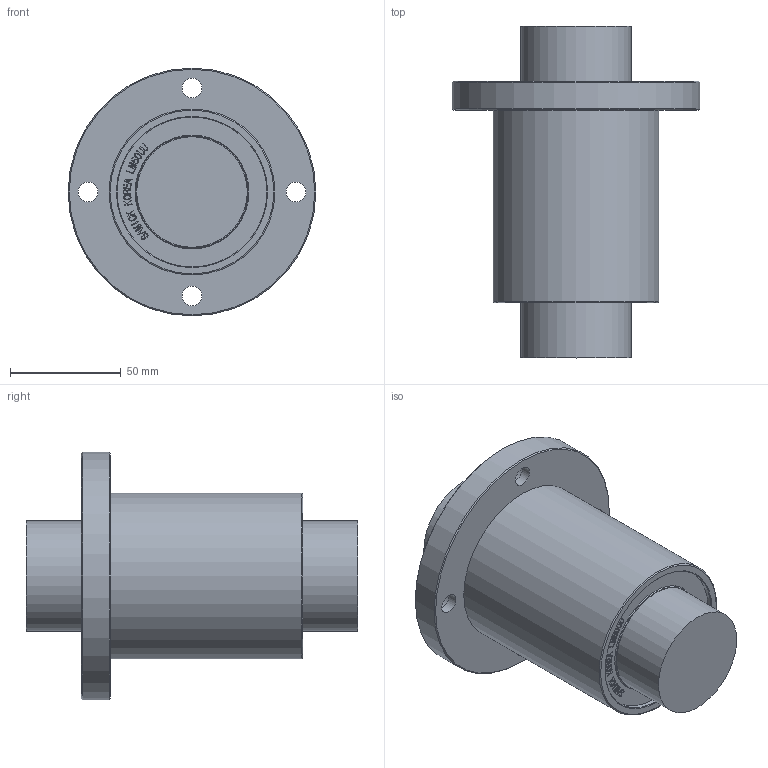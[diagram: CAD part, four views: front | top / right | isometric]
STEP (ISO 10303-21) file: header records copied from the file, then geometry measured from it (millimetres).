
FILE_DESCRIPTION(/* description */ (''),/* implementation_level */ '2;1');
FILE_NAME(/* name */ 'W:\(01) 2024년 홈페이지 CAD파일 최신화\LMEF\IPT\LMEF50UU.stp',/* time_stamp */ '2025-01-25T10:28:12+09:00',/* author */ ('서우현'),/* organization */ (''),/* preprocessor_version */ 'ST-DEVELOPER v17.2',/* originating_system */ 'Autodesk Inventor 2019',/* authorisation */ '');
FILE_SCHEMA (('AUTOMOTIVE_DESIGN { 1 0 10303 214 3 1 1 }','FEATURE_BASED_PROCESS_PLANNING'));
Length unit declared in the file: millimetre
Products named in the file (1): LM5
Bounding box: 112 x 150 x 112 mm (x, y, z)
Volume: 596628.5 mm3; surface area: 55672.4 mm2
Topology: 1 solids, 1 shells, 851 faces, 2405 edges, 1612 vertices
Faces by surface type: bspline 600, plane 228, cylinder 15, cone 6, torus 2
Full cylindrical faces by diameter (mm): 9 x4, 14 x4, 50 x2, 67.7 x2, 75 x2, 112 x1
Entity records: 29389 total; most frequent: CARTESIAN_POINT 10929, ORIENTED_EDGE 4810, EDGE_CURVE 2405, DIRECTION 1783, VERTEX_POINT 1612, B_SPLINE_CURVE_WITH_KNOTS 1200, LINE 1131, VECTOR 1131
